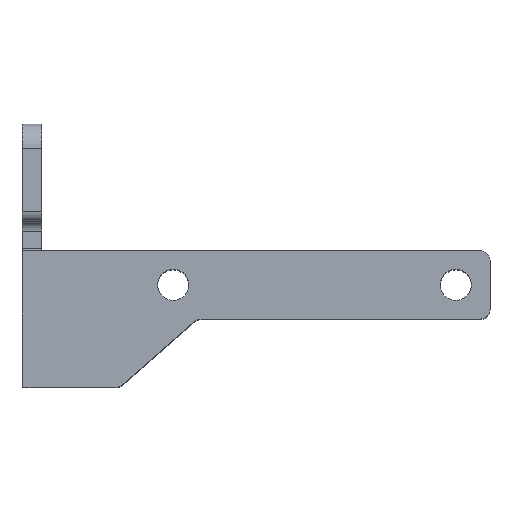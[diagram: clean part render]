
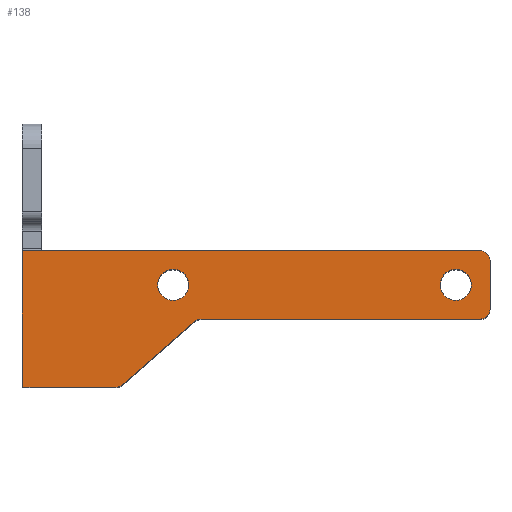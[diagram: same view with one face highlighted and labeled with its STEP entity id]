
A CAD part, top view. The second image highlights one B-rep face of the part: STEP entity #138.
In plain terms, the highlighted planar face has unit normal (0, 0, 1).
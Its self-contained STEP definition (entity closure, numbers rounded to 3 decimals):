
#138 = ADVANCED_FACE( '', ( #308, #309, #310 ), #311, .F. );
#308 = FACE_OUTER_BOUND( '', #511, .T. );
#309 = FACE_BOUND( '', #512, .T. );
#310 = FACE_BOUND( '', #513, .T. );
#311 = PLANE( '', #514 );
#511 = EDGE_LOOP( '', ( #855, #856, #857, #858, #859, #860, #861, #862, #863, #864, #865, #866 ) );
#512 = EDGE_LOOP( '', ( #867 ) );
#513 = EDGE_LOOP( '', ( #868 ) );
#514 = AXIS2_PLACEMENT_3D( '', #869, #870, #871 );
#855 = ORIENTED_EDGE( '', *, *, #1321, .T. );
#856 = ORIENTED_EDGE( '', *, *, #1305, .T. );
#857 = ORIENTED_EDGE( '', *, *, #1322, .T. );
#858 = ORIENTED_EDGE( '', *, *, #1323, .T. );
#859 = ORIENTED_EDGE( '', *, *, #1259, .T. );
#860 = ORIENTED_EDGE( '', *, *, #1282, .T. );
#861 = ORIENTED_EDGE( '', *, *, #1277, .F. );
#862 = ORIENTED_EDGE( '', *, *, #1324, .T. );
#863 = ORIENTED_EDGE( '', *, *, #1297, .T. );
#864 = ORIENTED_EDGE( '', *, *, #1325, .T. );
#865 = ORIENTED_EDGE( '', *, *, #1326, .T. );
#866 = ORIENTED_EDGE( '', *, *, #1327, .T. );
#867 = ORIENTED_EDGE( '', *, *, #1229, .F. );
#868 = ORIENTED_EDGE( '', *, *, #1248, .F. );
#869 = CARTESIAN_POINT( '', ( 2., 13.8, 19.5 ) );
#870 = DIRECTION( '', ( 0., 0., -1. ) );
#871 = DIRECTION( '', ( -1., 0., 0. ) );
#1229 = EDGE_CURVE( '', #1482, #1482, #1483, .T. );
#1248 = EDGE_CURVE( '', #1514, #1514, #1515, .T. );
#1259 = EDGE_CURVE( '', #1532, #1533, #1534, .T. );
#1277 = EDGE_CURVE( '', #1562, #1563, #1564, .T. );
#1282 = EDGE_CURVE( '', #1533, #1563, #1571, .T. );
#1297 = EDGE_CURVE( '', #1593, #1594, #1595, .T. );
#1305 = EDGE_CURVE( '', #1486, #1508, #1607, .T. );
#1321 = EDGE_CURVE( '', #1629, #1486, #1630, .T. );
#1322 = EDGE_CURVE( '', #1508, #1631, #1632, .T. );
#1323 = EDGE_CURVE( '', #1631, #1532, #1633, .T. );
#1324 = EDGE_CURVE( '', #1562, #1593, #1634, .T. );
#1325 = EDGE_CURVE( '', #1594, #1635, #1636, .T. );
#1326 = EDGE_CURVE( '', #1635, #1637, #1638, .T. );
#1327 = EDGE_CURVE( '', #1637, #1629, #1639, .T. );
#1482 = VERTEX_POINT( '', #1833 );
#1483 = CIRCLE( '', #1834, 1.6 );
#1486 = VERTEX_POINT( '', #1837 );
#1508 = VERTEX_POINT( '', #1865 );
#1514 = VERTEX_POINT( '', #1871 );
#1515 = CIRCLE( '', #1872, 1.6 );
#1532 = VERTEX_POINT( '', #1892 );
#1533 = VERTEX_POINT( '', #1893 );
#1534 = CIRCLE( '', #1894, 1. );
#1562 = VERTEX_POINT( '', #1932 );
#1563 = VERTEX_POINT( '', #1933 );
#1564 = CIRCLE( '', #1934, 1. );
#1571 = LINE( '', #1943, #1944 );
#1593 = VERTEX_POINT( '', #1975 );
#1594 = VERTEX_POINT( '', #1976 );
#1595 = CIRCLE( '', #1977, 1. );
#1607 = LINE( '', #1993, #1994 );
#1629 = VERTEX_POINT( '', #2026 );
#1630 = CIRCLE( '', #2027, 0.2 );
#1631 = VERTEX_POINT( '', #2028 );
#1632 = CIRCLE( '', #2029, 0.2 );
#1633 = LINE( '', #2030, #2031 );
#1634 = LINE( '', #2032, #2033 );
#1635 = VERTEX_POINT( '', #2034 );
#1636 = LINE( '', #2035, #2036 );
#1637 = VERTEX_POINT( '', #2037 );
#1638 = CIRCLE( '', #2038, 1. );
#1639 = LINE( '', #2039, #2040 );
#1833 = CARTESIAN_POINT( '', ( 46.1, 10.5, 19.5 ) );
#1834 = AXIS2_PLACEMENT_3D( '', #2258, #2259, #2260 );
#1837 = CARTESIAN_POINT( '', ( 0., 13.8, 19.5 ) );
#1865 = CARTESIAN_POINT( '', ( 0., 0.2, 19.5 ) );
#1871 = CARTESIAN_POINT( '', ( 17.1, 10.5, 19.5 ) );
#1872 = AXIS2_PLACEMENT_3D( '', #2288, #2289, #2290 );
#1892 = CARTESIAN_POINT( '', ( 9.625, 0., 19.5 ) );
#1893 = CARTESIAN_POINT( '', ( 10.284, 0.247, 19.5 ) );
#1894 = AXIS2_PLACEMENT_3D( '', #2306, #2307, #2308 );
#1932 = CARTESIAN_POINT( '', ( 18.376, 7., 19.5 ) );
#1933 = CARTESIAN_POINT( '', ( 17.717, 6.753, 19.5 ) );
#1934 = AXIS2_PLACEMENT_3D( '', #2328, #2329, #2330 );
#1943 = CARTESIAN_POINT( '', ( 10.284, 0.247, 19.5 ) );
#1944 = VECTOR( '', #2336, 1000. );
#1975 = CARTESIAN_POINT( '', ( 47., 7., 19.5 ) );
#1976 = CARTESIAN_POINT( '', ( 48., 8., 19.5 ) );
#1977 = AXIS2_PLACEMENT_3D( '', #2349, #2350, #2351 );
#1993 = CARTESIAN_POINT( '', ( 0., 13.8, 19.5 ) );
#1994 = VECTOR( '', #2362, 1000. );
#2026 = CARTESIAN_POINT( '', ( 0.2, 14., 19.5 ) );
#2027 = AXIS2_PLACEMENT_3D( '', #2385, #2386, #2387 );
#2028 = CARTESIAN_POINT( '', ( 0.2, 0., 19.5 ) );
#2029 = AXIS2_PLACEMENT_3D( '', #2388, #2389, #2390 );
#2030 = CARTESIAN_POINT( '', ( 0.2, 0., 19.5 ) );
#2031 = VECTOR( '', #2391, 1000. );
#2032 = CARTESIAN_POINT( '', ( 18.376, 7., 19.5 ) );
#2033 = VECTOR( '', #2392, 1000. );
#2034 = CARTESIAN_POINT( '', ( 48., 13., 19.5 ) );
#2035 = CARTESIAN_POINT( '', ( 48., 8., 19.5 ) );
#2036 = VECTOR( '', #2393, 1000. );
#2037 = CARTESIAN_POINT( '', ( 47., 14., 19.5 ) );
#2038 = AXIS2_PLACEMENT_3D( '', #2394, #2395, #2396 );
#2039 = CARTESIAN_POINT( '', ( 47., 14., 19.5 ) );
#2040 = VECTOR( '', #2397, 1000. );
#2258 = CARTESIAN_POINT( '', ( 44.5, 10.5, 19.5 ) );
#2259 = DIRECTION( '', ( 0., 0., 1. ) );
#2260 = DIRECTION( '', ( 1., 0., 0. ) );
#2288 = CARTESIAN_POINT( '', ( 15.5, 10.5, 19.5 ) );
#2289 = DIRECTION( '', ( 0., 0., 1. ) );
#2290 = DIRECTION( '', ( 1., 0., 0. ) );
#2306 = CARTESIAN_POINT( '', ( 9.625, 1., 19.5 ) );
#2307 = DIRECTION( '', ( 0., 0., 1. ) );
#2308 = DIRECTION( '', ( 1., 0., 0. ) );
#2328 = CARTESIAN_POINT( '', ( 18.376, 6., 19.5 ) );
#2329 = DIRECTION( '', ( 0., 0., 1. ) );
#2330 = DIRECTION( '', ( 1., 0., 0. ) );
#2336 = DIRECTION( '', ( 0.753, 0.659, 0. ) );
#2349 = CARTESIAN_POINT( '', ( 47., 8., 19.5 ) );
#2350 = DIRECTION( '', ( 0., 0., 1. ) );
#2351 = DIRECTION( '', ( 1., 0., 0. ) );
#2362 = DIRECTION( '', ( 0., -1., 0. ) );
#2385 = CARTESIAN_POINT( '', ( 0.2, 13.8, 19.5 ) );
#2386 = DIRECTION( '', ( 0., 0., 1. ) );
#2387 = DIRECTION( '', ( 1., 0., 0. ) );
#2388 = CARTESIAN_POINT( '', ( 0.2, 0.2, 19.5 ) );
#2389 = DIRECTION( '', ( 0., 0., 1. ) );
#2390 = DIRECTION( '', ( 1., 0., 0. ) );
#2391 = DIRECTION( '', ( 1., 0., 0. ) );
#2392 = DIRECTION( '', ( 1., 0., 0. ) );
#2393 = DIRECTION( '', ( 0., 1., 0. ) );
#2394 = CARTESIAN_POINT( '', ( 47., 13., 19.5 ) );
#2395 = DIRECTION( '', ( 0., 0., 1. ) );
#2396 = DIRECTION( '', ( 1., 0., 0. ) );
#2397 = DIRECTION( '', ( -1., 0., 0. ) );
